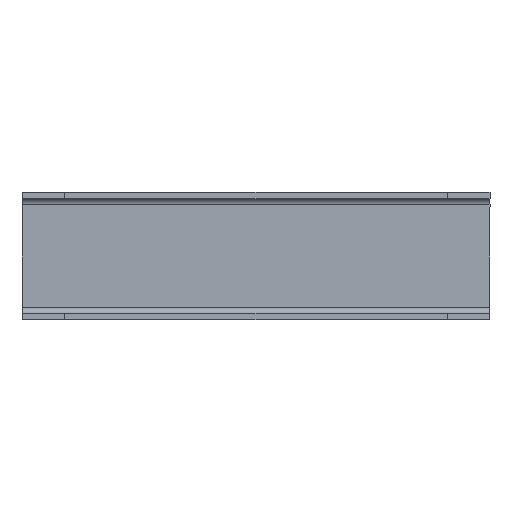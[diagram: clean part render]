
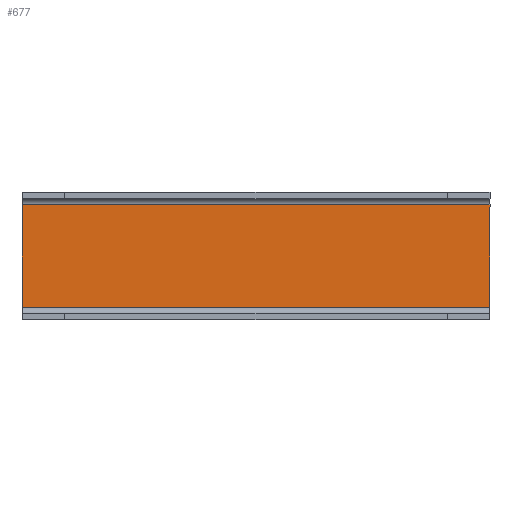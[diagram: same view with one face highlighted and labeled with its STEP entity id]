
A CAD part, front view. The second image highlights one B-rep face of the part: STEP entity #677.
In plain terms, the highlighted planar face has unit normal (0, -1, 0).
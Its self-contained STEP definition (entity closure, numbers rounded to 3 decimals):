
#7 = EDGE_CURVE ( 'NONE', #328, #873, #556, .T. ) ;
#9 = CARTESIAN_POINT ( 'NONE',  ( 110., -3., 30. ) ) ;
#48 = LINE ( 'NONE', #270, #201 ) ;
#64 = CARTESIAN_POINT ( 'NONE',  ( 110., -3., 24. ) ) ;
#67 = VERTEX_POINT ( 'NONE', #761 ) ;
#74 = EDGE_CURVE ( 'NONE', #873, #67, #524, .T. ) ;
#98 = DIRECTION ( 'NONE',  ( 0., 0., -1. ) ) ;
#136 = DIRECTION ( 'NONE',  ( 0., 1., 0. ) ) ;
#168 = VECTOR ( 'NONE', #784, 1000. ) ;
#201 = VECTOR ( 'NONE', #538, 1000. ) ;
#203 = ORIENTED_EDGE ( 'NONE', *, *, #595, .T. ) ;
#270 = CARTESIAN_POINT ( 'NONE',  ( 110., -3., 24. ) ) ;
#328 = VERTEX_POINT ( 'NONE', #64 ) ;
#336 = CARTESIAN_POINT ( 'NONE',  ( 110., -3., 30. ) ) ;
#362 = CARTESIAN_POINT ( 'NONE',  ( 110., -3., -24. ) ) ;
#447 = CARTESIAN_POINT ( 'NONE',  ( 110., -3., -24. ) ) ;
#458 = CARTESIAN_POINT ( 'NONE',  ( -110., -3., 30. ) ) ;
#524 = LINE ( 'NONE', #447, #625 ) ;
#537 = EDGE_LOOP ( 'NONE', ( #203, #749, #568, #864 ) ) ;
#538 = DIRECTION ( 'NONE',  ( -1., 0., 0. ) ) ;
#556 = LINE ( 'NONE', #9, #778 ) ;
#568 = ORIENTED_EDGE ( 'NONE', *, *, #7, .F. ) ;
#595 = EDGE_CURVE ( 'NONE', #693, #67, #795, .T. ) ;
#598 = FACE_OUTER_BOUND ( 'NONE', #537, .T. ) ;
#605 = DIRECTION ( 'NONE',  ( 0., 0., 1. ) ) ;
#609 = PLANE ( 'NONE',  #819 ) ;
#625 = VECTOR ( 'NONE', #797, 1000. ) ;
#677 = ADVANCED_FACE ( 'NONE', ( #598 ), #609, .F. ) ;
#693 = VERTEX_POINT ( 'NONE', #805 ) ;
#696 = EDGE_CURVE ( 'NONE', #328, #693, #48, .T. ) ;
#749 = ORIENTED_EDGE ( 'NONE', *, *, #74, .F. ) ;
#761 = CARTESIAN_POINT ( 'NONE',  ( -110., -3., -24. ) ) ;
#778 = VECTOR ( 'NONE', #98, 1000. ) ;
#784 = DIRECTION ( 'NONE',  ( 0., 0., -1. ) ) ;
#795 = LINE ( 'NONE', #458, #168 ) ;
#797 = DIRECTION ( 'NONE',  ( -1., 0., 0. ) ) ;
#805 = CARTESIAN_POINT ( 'NONE',  ( -110., -3., 24. ) ) ;
#819 = AXIS2_PLACEMENT_3D ( 'NONE', #336, #136, #605 ) ;
#864 = ORIENTED_EDGE ( 'NONE', *, *, #696, .T. ) ;
#873 = VERTEX_POINT ( 'NONE', #362 ) ;
